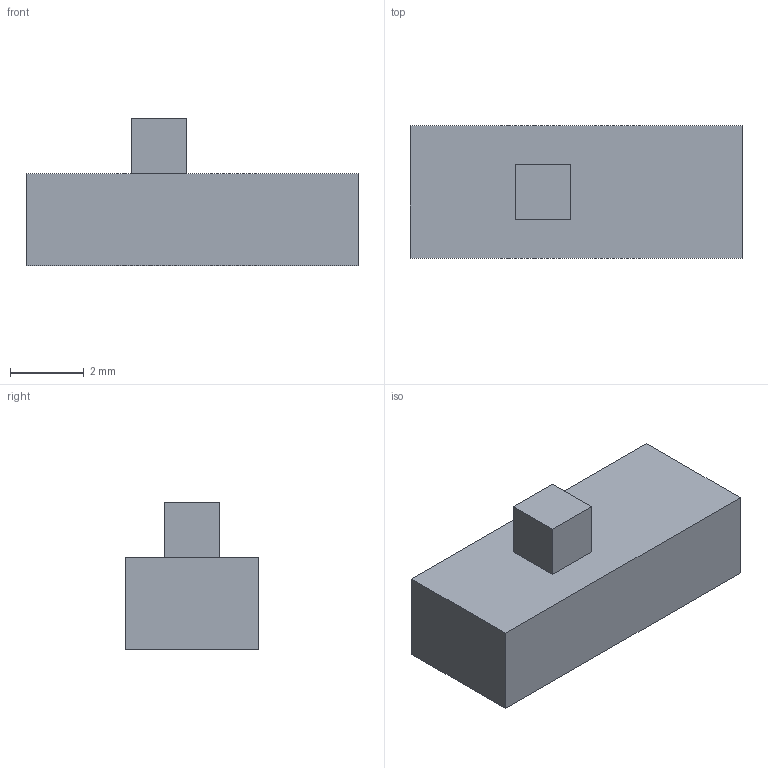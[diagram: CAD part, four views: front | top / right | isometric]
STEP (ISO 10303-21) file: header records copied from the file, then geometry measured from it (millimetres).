
FILE_DESCRIPTION(('tredder 3D model'),'2;1');
FILE_NAME('sw_slide_ck_js202011jcqn.step','2026-01-01T00:00:00',(''),(''),'tredder step_writer','tredder','');
FILE_SCHEMA(('AUTOMOTIVE_DESIGN { 1 0 10303 214 1 1 1 1 }'));
Length unit declared in the file: millimetre
Products named in the file (1): sw_slide_ck_js202011jcqn
Bounding box: 9 x 3.6 x 4 mm (x, y, z)
Volume: 84.4 mm3; surface area: 141.3 mm2
Topology: 2 solids, 2 shells, 12 faces, 24 edges, 16 vertices
Faces by surface type: plane 12
Entity records: 332 total; most frequent: CARTESIAN_POINT 53, DIRECTION 50, ORIENTED_EDGE 48, VECTOR 24, LINE 24, EDGE_CURVE 24, VERTEX_POINT 16, AXIS2_PLACEMENT_3D 13
